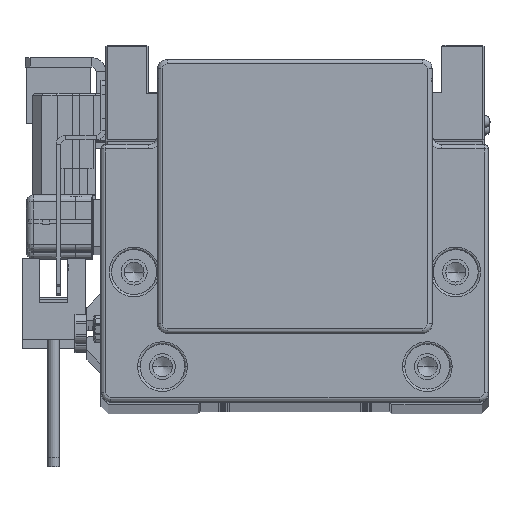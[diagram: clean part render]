
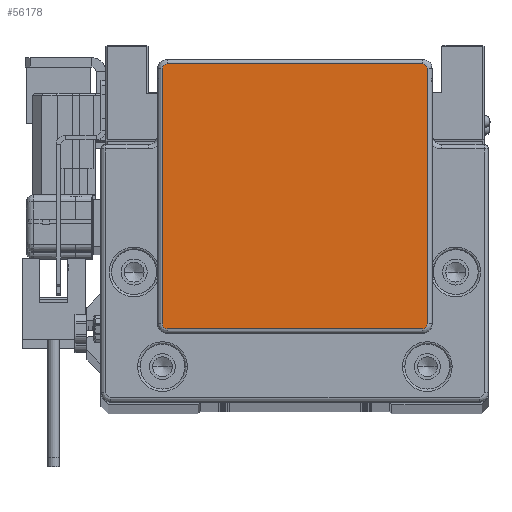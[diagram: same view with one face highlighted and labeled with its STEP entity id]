
A CAD part, top view. The second image highlights one B-rep face of the part: STEP entity #56178.
In plain terms, the highlighted planar face has unit normal (0, 0, 1).
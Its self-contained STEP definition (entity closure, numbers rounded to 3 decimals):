
#533 = VECTOR ( 'NONE', #9067, 1000. ) ;
#1576 = ORIENTED_EDGE ( 'NONE', *, *, #44919, .T. ) ;
#1999 = CARTESIAN_POINT ( 'NONE',  ( -27., 35.25, 17. ) ) ;
#4322 = EDGE_CURVE ( 'NONE', #33125, #40265, #16481, .T. ) ;
#5511 = VECTOR ( 'NONE', #6952, 1000. ) ;
#6952 = DIRECTION ( 'NONE',  ( 1., 0., 0. ) ) ;
#6956 = VERTEX_POINT ( 'NONE', #14433 ) ;
#9067 = DIRECTION ( 'NONE',  ( 0., -1., 0. ) ) ;
#10703 = ORIENTED_EDGE ( 'NONE', *, *, #4322, .T. ) ;
#11174 = CIRCLE ( 'NONE', #57311, 1. ) ;
#12193 = CARTESIAN_POINT ( 'NONE',  ( -27., 34.25, 17. ) ) ;
#12354 = CARTESIAN_POINT ( 'NONE',  ( 27., 34.25, 17. ) ) ;
#13138 = CARTESIAN_POINT ( 'NONE',  ( -27., -19.75, 17. ) ) ;
#13796 = DIRECTION ( 'NONE',  ( 0., 0., 1. ) ) ;
#14433 = CARTESIAN_POINT ( 'NONE',  ( 28., -19.75, 17. ) ) ;
#14923 = AXIS2_PLACEMENT_3D ( 'NONE', #21127, #45212, #40403 ) ;
#16321 = AXIS2_PLACEMENT_3D ( 'NONE', #13138, #42074, #17339 ) ;
#16481 = CIRCLE ( 'NONE', #34915, 1. ) ;
#17339 = DIRECTION ( 'NONE',  ( 1., 0., 0. ) ) ;
#18135 = VERTEX_POINT ( 'NONE', #55027 ) ;
#20721 = CARTESIAN_POINT ( 'NONE',  ( -28., 34.25, 17. ) ) ;
#21127 = CARTESIAN_POINT ( 'NONE',  ( -27., -19.75, 17. ) ) ;
#22466 = PLANE ( 'NONE',  #16321 ) ;
#24817 = EDGE_CURVE ( 'NONE', #27844, #6956, #35717, .T. ) ;
#25373 = CARTESIAN_POINT ( 'NONE',  ( -27., -20.75, 17. ) ) ;
#25930 = CARTESIAN_POINT ( 'NONE',  ( 27., -20.75, 17. ) ) ;
#27122 = DIRECTION ( 'NONE',  ( 1., 0., 0. ) ) ;
#27844 = VERTEX_POINT ( 'NONE', #29437 ) ;
#28848 = DIRECTION ( 'NONE',  ( 1., 0., 0. ) ) ;
#29437 = CARTESIAN_POINT ( 'NONE',  ( 27., -20.75, 17. ) ) ;
#30094 = LINE ( 'NONE', #49700, #59866 ) ;
#30428 = EDGE_CURVE ( 'NONE', #40265, #18135, #41530, .T. ) ;
#33125 = VERTEX_POINT ( 'NONE', #47035 ) ;
#33291 = CIRCLE ( 'NONE', #14923, 1. ) ;
#34868 = EDGE_LOOP ( 'NONE', ( #58706, #60108, #51556, #57803, #1576, #45452, #55911, #10703 ) ) ;
#34915 = AXIS2_PLACEMENT_3D ( 'NONE', #12354, #45537, #27122 ) ;
#35435 = DIRECTION ( 'NONE',  ( -1., 0., 0. ) ) ;
#35717 = CIRCLE ( 'NONE', #45974, 1. ) ;
#38530 = CARTESIAN_POINT ( 'NONE',  ( 27., -19.75, 17. ) ) ;
#39584 = LINE ( 'NONE', #59133, #533 ) ;
#40265 = VERTEX_POINT ( 'NONE', #51447 ) ;
#40403 = DIRECTION ( 'NONE',  ( 1., 0., 0. ) ) ;
#41530 = LINE ( 'NONE', #1999, #45328 ) ;
#41749 = FACE_OUTER_BOUND ( 'NONE', #34868, .T. ) ;
#42074 = DIRECTION ( 'NONE',  ( 0., 0., 1. ) ) ;
#44919 = EDGE_CURVE ( 'NONE', #51731, #27844, #50942, .T. ) ;
#45212 = DIRECTION ( 'NONE',  ( 0., 0., 1. ) ) ;
#45328 = VECTOR ( 'NONE', #35435, 1000. ) ;
#45452 = ORIENTED_EDGE ( 'NONE', *, *, #24817, .T. ) ;
#45537 = DIRECTION ( 'NONE',  ( 0., 0., 1. ) ) ;
#45974 = AXIS2_PLACEMENT_3D ( 'NONE', #38530, #13796, #47833 ) ;
#46147 = EDGE_CURVE ( 'NONE', #49924, #51731, #33291, .T. ) ;
#46546 = DIRECTION ( 'NONE',  ( 0., 0., 1. ) ) ;
#47035 = CARTESIAN_POINT ( 'NONE',  ( 28., 34.25, 17. ) ) ;
#47833 = DIRECTION ( 'NONE',  ( 1., 0., 0. ) ) ;
#48292 = EDGE_CURVE ( 'NONE', #6956, #33125, #30094, .T. ) ;
#49634 = CARTESIAN_POINT ( 'NONE',  ( -28., -19.75, 17. ) ) ;
#49700 = CARTESIAN_POINT ( 'NONE',  ( 28., 34.25, 17. ) ) ;
#49924 = VERTEX_POINT ( 'NONE', #49634 ) ;
#50942 = LINE ( 'NONE', #25930, #5511 ) ;
#51447 = CARTESIAN_POINT ( 'NONE',  ( 27., 35.25, 17. ) ) ;
#51556 = ORIENTED_EDGE ( 'NONE', *, *, #60733, .T. ) ;
#51731 = VERTEX_POINT ( 'NONE', #25373 ) ;
#53866 = DIRECTION ( 'NONE',  ( 0., 1., 0. ) ) ;
#54402 = VERTEX_POINT ( 'NONE', #20721 ) ;
#55027 = CARTESIAN_POINT ( 'NONE',  ( -27., 35.25, 17. ) ) ;
#55911 = ORIENTED_EDGE ( 'NONE', *, *, #48292, .T. ) ;
#56178 = ADVANCED_FACE ( 'NONE', ( #41749 ), #22466, .T. ) ;
#56332 = EDGE_CURVE ( 'NONE', #18135, #54402, #11174, .T. ) ;
#57311 = AXIS2_PLACEMENT_3D ( 'NONE', #12193, #46546, #28848 ) ;
#57803 = ORIENTED_EDGE ( 'NONE', *, *, #46147, .T. ) ;
#58706 = ORIENTED_EDGE ( 'NONE', *, *, #30428, .T. ) ;
#59133 = CARTESIAN_POINT ( 'NONE',  ( -28., -19.75, 17. ) ) ;
#59866 = VECTOR ( 'NONE', #53866, 1000. ) ;
#60108 = ORIENTED_EDGE ( 'NONE', *, *, #56332, .T. ) ;
#60733 = EDGE_CURVE ( 'NONE', #54402, #49924, #39584, .T. ) ;
